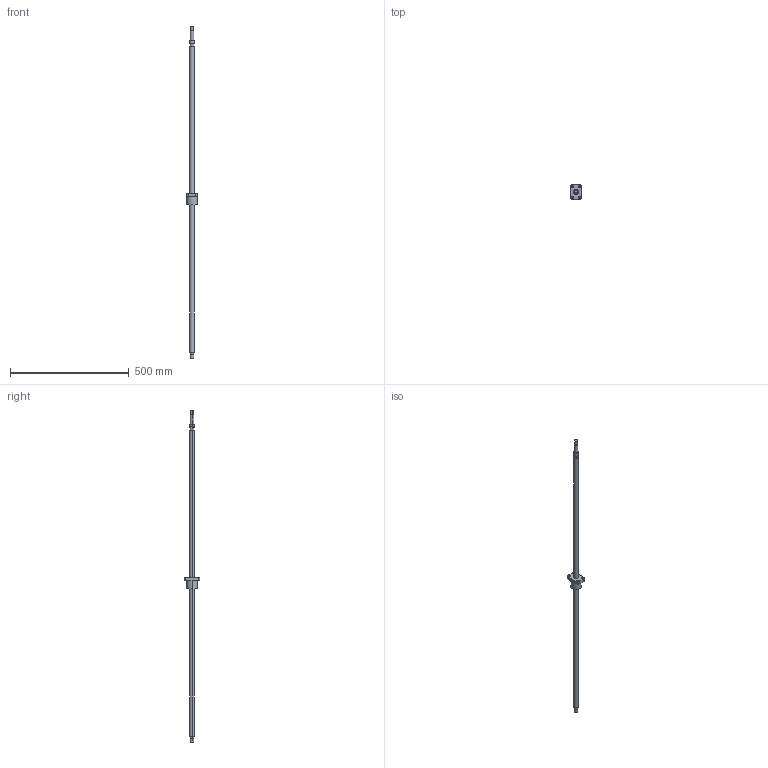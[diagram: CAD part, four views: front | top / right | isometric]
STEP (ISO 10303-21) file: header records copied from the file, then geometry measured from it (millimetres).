
FILE_DESCRIPTION((''),'2;1');
FILE_NAME('R20-10K3-FSC-1289-1399','2008-04-03T',('wcwu'),(''),'PRO/ENGINEER BY PARAMETRIC TECHNOLOGY CORPORATION, 2005070','PRO/ENGINEER BY PARAMETRIC TECHNOLOGY CORPORATION, 2005070','');
FILE_SCHEMA(('CONFIG_CONTROL_DESIGN'));
Length unit declared in the file: millimetre
Products named in the file (1): R20-10K3-FSC-1289-1399
Bounding box: 46 x 66 x 1399 mm (x, y, z)
Volume: 503806.9 mm3; surface area: 98389.3 mm2
Topology: 1 solids, 1 shells, 65 faces, 146 edges, 96 vertices
Faces by surface type: cylinder 40, plane 25
Entity records: 1906 total; most frequent: DIRECTION 360, CARTESIAN_POINT 307, ORIENTED_EDGE 292, AXIS2_PLACEMENT_3D 149, EDGE_CURVE 146, VERTEX_POINT 96, EDGE_LOOP 86, CIRCLE 84
